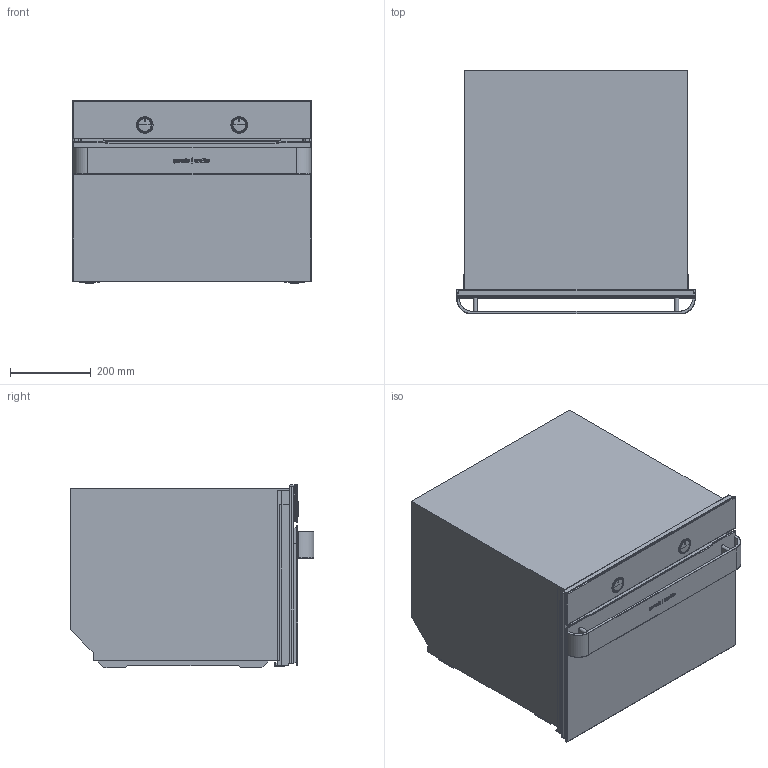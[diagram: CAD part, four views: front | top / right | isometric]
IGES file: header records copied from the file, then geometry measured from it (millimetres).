
Start section: SolidWorks IGES file using analytic representation for surfaces
Global section: file name: E:\3D za kuhinjaše\3D za kuhinjaše-ORA\728023_BCM547ORAB\728023_BCM547ORAB\728023_BCM547ORAB.IGS; native system: SolidWorks 2016; preprocessor: SolidWorks 2016; author: kristijan.lamesic; date: 170309.153656; units: millimetre
Bounding box: 593 x 605.5 x 454.9 mm (x, y, z)
Surface area: 3088169.8 mm2 (no closed solid volume)
Topology: 0 solids, 0 shells, 582 faces, 6022 edges, 6014 vertices
Faces by surface type: bspline 384, revolution 198
